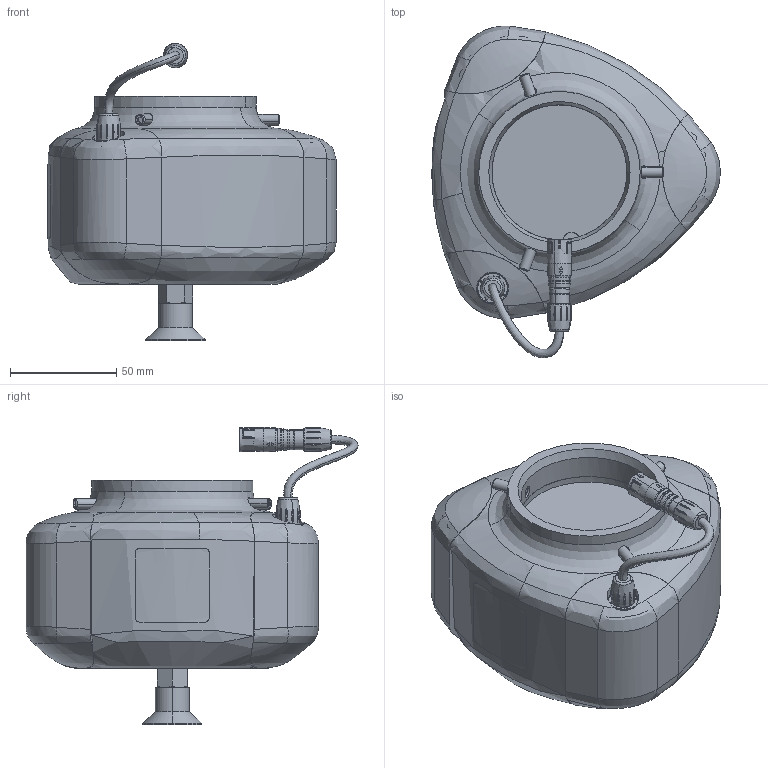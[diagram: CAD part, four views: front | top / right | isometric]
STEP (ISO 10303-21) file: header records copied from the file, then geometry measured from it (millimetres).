
FILE_DESCRIPTION (( 'STEP AP214' ), '1' );
FILE_NAME ('Schmalz-greifer_Farbe_originalgetreu.STEP', '2024-01-02T11:29:27', ( '' ), ( '' ), 'SwSTEP 2.0', 'SolidWorks 2018', '' );
FILE_SCHEMA (( 'AUTOMOTIVE_DESIGN' ));
Length unit declared in the file: millimetre
Products named in the file (1): Schmalz-greifer_Farbe_originalgetreu
Bounding box: 135.81 x 156.36 x 139.94 mm (x, y, z)
Surface area: 106478.5 mm2 (no closed solid volume)
Topology: 0 solids, 15 shells, 1051 faces, 2594 edges, 1608 vertices
Faces by surface type: bspline 817, plane 234
Entity records: 71626 total; most frequent: CARTESIAN_POINT 52539, ORIENTED_EDGE 5121, EDGE_CURVE 2576, VERTEX_POINT 1608, B_SPLINE_CURVE_WITH_KNOTS 1480, EDGE_LOOP 1126, FACE_OUTER_BOUND 1051, ADVANCED_FACE 1051
